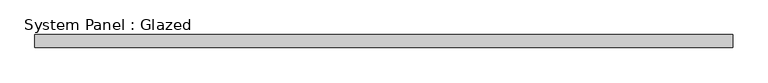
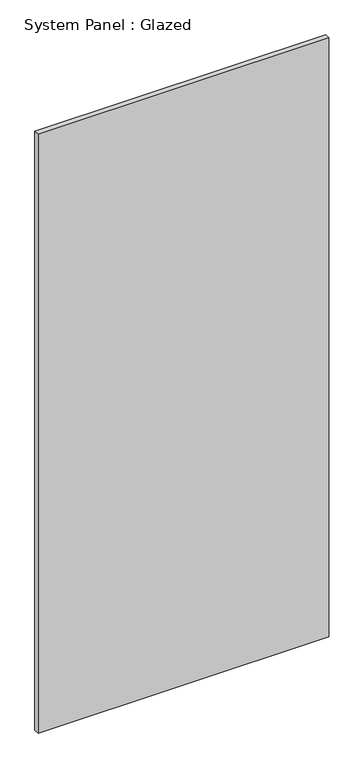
"""IFC4 building model written with IfcOpenShell, lengths in millimetres: plate geometry, System Panel : Glazed."""

from ifc_helpers import new_model, si_unit, origin, origin_with_axes, place, context, project, spatial, polyline, outline, extrude, source, transform, mapped, element, save


def system_panel_glazed_0558c24c(model_context):
    return source(origin(), model_context, "Body", "SweptSolid", [
        extrude(outline(polyline([(685.7999999, -44.45), (-685.7999999, -44.45), (-685.7999999, -19.05), (685.7999999, -19.05), (685.7999999, -44.45)])), origin_with_axes(), (0.0, 0.0, 1.0), 2984.5),
    ])


if __name__ == "__main__":
    model = new_model("IFC4")
    model_context = context("Model", 3, world=origin())
    ifc_project = project(units=[si_unit("LENGTHUNIT", "METRE", prefix="MILLI")], contexts=[model_context])
    site = spatial("IfcSite", under=ifc_project)
    building = spatial("IfcBuilding", under=site)
    placement = place(None, origin())
    system_panel_glazed_shape = system_panel_glazed_0558c24c(model_context)
    element("IfcPlate", 1, ObjectType="System Panel : Glazed", at=placement, inside=building, context=model_context, shape_type="MappedRepresentation", body=[
        mapped(system_panel_glazed_shape, transform((0.0, 0.0, 0.0), x_axis=(1.0, 0.0, 0.0), y_axis=(0.0, 1.0, 0.0), z_axis=(0.0, 0.0, 1.0))),
    ])
    save(model, "model.ifc")
